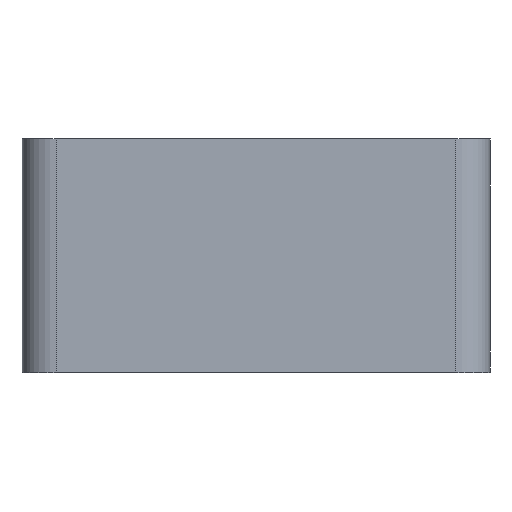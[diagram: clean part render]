
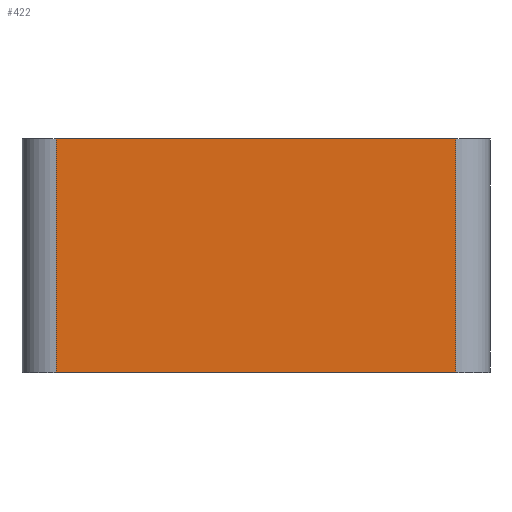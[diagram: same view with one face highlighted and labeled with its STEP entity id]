
A CAD part, left-side view. The second image highlights one B-rep face of the part: STEP entity #422.
In plain terms, the highlighted planar face has unit normal (-1, 0, 0).
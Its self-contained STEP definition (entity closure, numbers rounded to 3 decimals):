
#109 = CARTESIAN_POINT ( 'NONE',  ( 0., 0., 17. ) ) ;
#125 = DIRECTION ( 'NONE',  ( 0., 0., -1. ) ) ;
#126 = DIRECTION ( 'NONE',  ( 1., 0., 0. ) ) ;
#178 = CARTESIAN_POINT ( 'NONE',  ( 0., 2.5, 17. ) ) ;
#181 = LINE ( 'NONE', #178, #223 ) ;
#186 = PLANE ( 'NONE',  #188 ) ;
#188 = AXIS2_PLACEMENT_3D ( 'NONE', #109, #126, #125 ) ;
#200 = FACE_OUTER_BOUND ( 'NONE', #439, .T. ) ;
#217 = DIRECTION ( 'NONE',  ( 0., 0., -1. ) ) ;
#218 = VECTOR ( 'NONE', #217, 1000. ) ;
#219 = CARTESIAN_POINT ( 'NONE',  ( 0., 31.5, 17. ) ) ;
#220 = LINE ( 'NONE', #219, #218 ) ;
#222 = DIRECTION ( 'NONE',  ( 0., 0., -1. ) ) ;
#223 = VECTOR ( 'NONE', #222, 1000. ) ;
#302 = EDGE_CURVE ( 'NONE', #384, #320, #610, .T. ) ;
#320 = VERTEX_POINT ( 'NONE', #505 ) ;
#325 = EDGE_CURVE ( 'NONE', #329, #334, #489, .T. ) ;
#329 = VERTEX_POINT ( 'NONE', #568 ) ;
#334 = VERTEX_POINT ( 'NONE', #567 ) ;
#384 = VERTEX_POINT ( 'NONE', #744 ) ;
#422 = ADVANCED_FACE ( 'NONE', ( #200 ), #186, .F. ) ;
#423 = ORIENTED_EDGE ( 'NONE', *, *, #441, .T. ) ;
#434 = ORIENTED_EDGE ( 'NONE', *, *, #302, .F. ) ;
#436 = ORIENTED_EDGE ( 'NONE', *, *, #325, .T. ) ;
#438 = EDGE_CURVE ( 'NONE', #320, #334, #181, .T. ) ;
#439 = EDGE_LOOP ( 'NONE', ( #436, #461, #434, #423 ) ) ;
#441 = EDGE_CURVE ( 'NONE', #384, #329, #220, .T. ) ;
#461 = ORIENTED_EDGE ( 'NONE', *, *, #438, .F. ) ;
#487 = VECTOR ( 'NONE', #570, 1000. ) ;
#488 = CARTESIAN_POINT ( 'NONE',  ( 0., 0., 0. ) ) ;
#489 = LINE ( 'NONE', #488, #487 ) ;
#505 = CARTESIAN_POINT ( 'NONE',  ( 0., 2.5, 17. ) ) ;
#567 = CARTESIAN_POINT ( 'NONE',  ( 0., 2.5, 0. ) ) ;
#568 = CARTESIAN_POINT ( 'NONE',  ( 0., 31.5, 0. ) ) ;
#570 = DIRECTION ( 'NONE',  ( 0., -1., 0. ) ) ;
#607 = DIRECTION ( 'NONE',  ( 0., -1., 0. ) ) ;
#608 = VECTOR ( 'NONE', #607, 1000. ) ;
#609 = CARTESIAN_POINT ( 'NONE',  ( 0., 0., 17. ) ) ;
#610 = LINE ( 'NONE', #609, #608 ) ;
#744 = CARTESIAN_POINT ( 'NONE',  ( 0., 31.5, 17. ) ) ;
